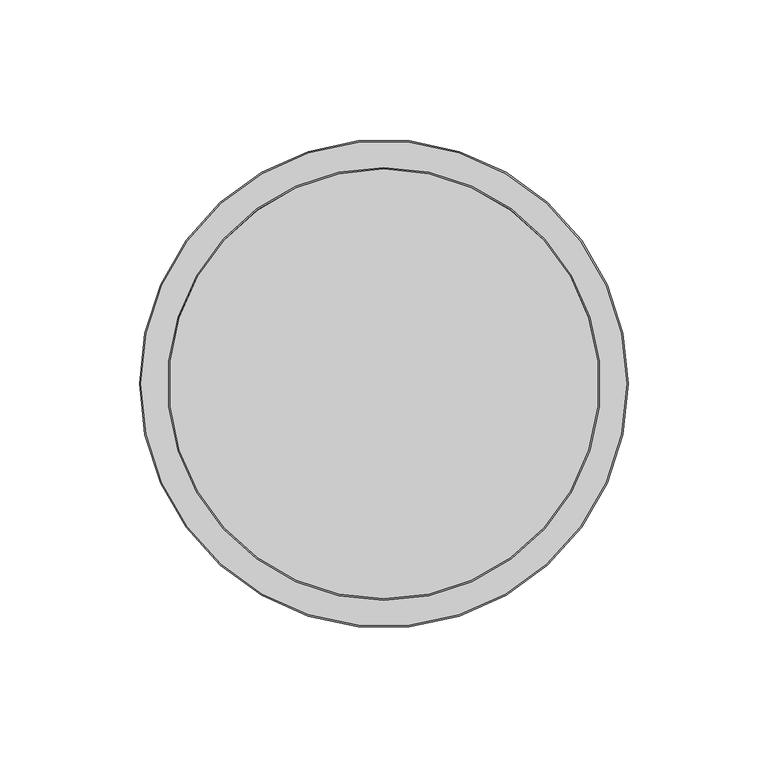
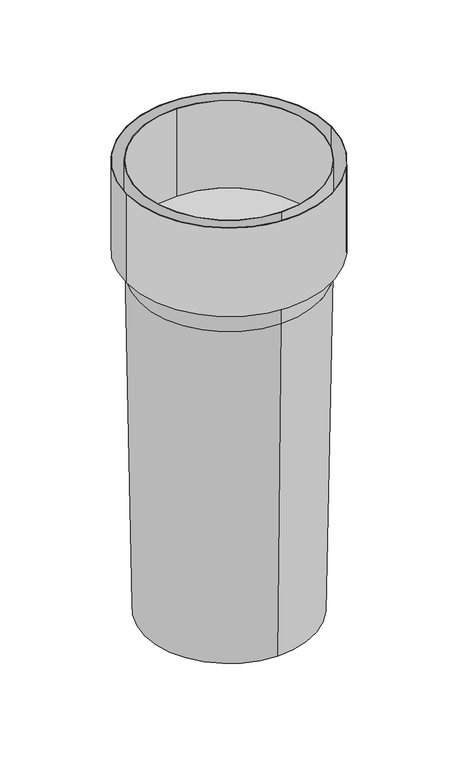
"""IFC4 building model written with IfcOpenShell, lengths in millimetres: valve geometry, Pipelife - Stormbox - Wkład filtr. stal. : 160 dł. 300 mm."""

from ifc_helpers import new_model, si_unit, frame, origin, place, context, project, spatial, polyline, circle_curve, source, transform, mapped, element, save
from ifc_brep_helpers import plane_surface, cylinder_surface, revolved_surface, advanced_brep


def valve_4bfdaffc(model_context):
    return source(origin(), model_context, "Body", "AdvancedBrep", [
        advanced_brep(
        [(87.5, 0.0, 324.0), (-87.5, 0.0, 324.0), (87.5, 0.0, 404.0), (-87.5, 0.0, 404.0), (87.0, 0.0, 404.0), (-87.0, 0.0, 404.0), (87.5, 0.0, 325.0), (-87.5, 0.0, 325.0), (-87.0, 0.0, 325.0), (87.0, 0.0, 325.0), (0.0, -77.5, 325.0), (0.0, 77.5, 325.0), (0.0, -77.0, 325.0), (0.0, 77.0, 325.0), (0.0, 77.5, 404.0), (0.0, -77.5, 404.0), (0.0, 77.0, 404.0), (0.0, -77.0, 404.0)],
        [
            (0, 1, circle_curve(frame((0.0, 0.0, 324.0), z_axis=(0.0, 0.0, -1.0), x_axis=(-1.0, 0.0, 0.0)), 87.5)),
            (1, 0, circle_curve(frame((0.0, 0.0, 324.0), z_axis=(0.0, 0.0, -1.0), x_axis=(-1.0, 0.0, 0.0)), 87.5)),
            (2, 3, circle_curve(frame((0.0, 0.0, 404.0), z_axis=(0.0, 0.0, 1.0), x_axis=(-1.0, 0.0, 0.0)), 87.5)),
            (3, 2, circle_curve(frame((0.0, 0.0, 404.0), z_axis=(0.0, 0.0, 1.0), x_axis=(-1.0, 0.0, 0.0)), 87.5)),
            (4, 5, circle_curve(frame((0.0, 0.0, 404.0), z_axis=(0.0, 0.0, -1.0), x_axis=(-1.0, 0.0, 0.0)), 87.0)),
            (5, 4, circle_curve(frame((0.0, 0.0, 404.0), z_axis=(0.0, 0.0, -1.0), x_axis=(-1.0, 0.0, 0.0)), 87.0)),
            (0, 6),
            (6, 2),
            (3, 7),
            (7, 1),
            (5, 8),
            (8, 9, circle_curve(frame((0.0, 0.0, 325.0), z_axis=(0.0, 0.0, -1.0), x_axis=(-1.0, 0.0, 0.0)), 87.0)),
            (9, 4),
            (9, 8, circle_curve(frame((0.0, 0.0, 325.0), z_axis=(0.0, 0.0, -1.0), x_axis=(-1.0, 0.0, 0.0)), 87.0)),
            (10, 11, circle_curve(frame((0.0, 0.0, 325.0), z_axis=(0.0, 0.0, -1.0), x_axis=(0.0, -1.0, 0.0)), 77.5)),
            (11, 10, circle_curve(frame((0.0, 0.0, 325.0), z_axis=(0.0, 0.0, -1.0), x_axis=(0.0, -1.0, 0.0)), 77.5)),
            (12, 13, circle_curve(frame((0.0, 0.0, 325.0), z_axis=(0.0, 0.0, 1.0), x_axis=(0.0, -1.0, 0.0)), 77.0)),
            (13, 12, circle_curve(frame((0.0, 0.0, 325.0), z_axis=(0.0, 0.0, 1.0), x_axis=(0.0, -1.0, 0.0)), 77.0)),
            (14, 15, circle_curve(frame((0.0, 0.0, 404.0), z_axis=(0.0, 0.0, 1.0), x_axis=(0.0, -1.0, 0.0)), 77.5)),
            (15, 14, circle_curve(frame((0.0, 0.0, 404.0), z_axis=(0.0, 0.0, 1.0), x_axis=(0.0, -1.0, 0.0)), 77.5)),
            (16, 17, circle_curve(frame((0.0, 0.0, 404.0), z_axis=(0.0, 0.0, -1.0), x_axis=(0.0, -1.0, 0.0)), 77.0)),
            (17, 16, circle_curve(frame((0.0, 0.0, 404.0), z_axis=(0.0, 0.0, -1.0), x_axis=(0.0, -1.0, 0.0)), 77.0)),
            (14, 11),
            (10, 15),
            (16, 13),
            (12, 17),
        ],
        [
            plane_surface(frame((0.0, 0.0, 324.0), z_axis=(0.0, 0.0, -1.0), x_axis=(0.0, -1.0, 0.0))),
            plane_surface(frame((0.0, 0.0, 404.0), z_axis=(0.0, 0.0, 1.0), x_axis=(0.0, -1.0, 0.0))),
            cylinder_surface(frame((0.0, 0.0, 324.0), z_axis=(0.0, 0.0, -1.0), x_axis=(-1.0, 0.0, 0.0)), 87.5),
            revolved_surface(polyline([(-87.0, 0.0, 404.0), (-87.0, 0.0, 325.0)]), (0.0, 0.0, 324.0), (0.0, 0.0, 1.0)),
            plane_surface(frame((0.0, 0.0, 325.0), z_axis=(0.0, 0.0, 1.0), x_axis=(0.0, -1.0, 0.0))),
            cylinder_surface(frame((0.0, 0.0, 404.0), z_axis=(0.0, 0.0, 1.0), x_axis=(0.0, -1.0, 0.0)), 77.5),
            revolved_surface(polyline([(0.0, -77.0, 325.0), (0.0, -77.0, 404.0)]), (0.0, 0.0, 404.0), (0.0, 0.0, -1.0)),
        ],
        [
            (0, [[1, 2]]),
            (1, [[3, 4], [5, 6]]),
            (2, [[-1, 7, 8, -4, 9, 10]]),
            (2, [[-2, -10, -9, -3, -8, -7]]),
            (3, [[-6, 11, 12, 13]]),
            (3, [[-5, -13, 14, -11]]),
            (4, [[-12, -14], [15, 16]]),
            (4, [[17, 18]]),
            (1, [[19, 20], [21, 22]]),
            (5, [[-19, 23, -15, 24]]),
            (5, [[-20, -24, -16, -23]]),
            (6, [[-21, 25, -17, 26]]),
            (6, [[-22, -26, -18, -25]]),
        ],
    ),
        advanced_brep(
        [(0.0, 72.0, 0.0), (0.0, -72.0, 0.0), (0.0, -77.0, 303.0), (0.0, 77.0, 303.0), (0.0, 77.0, 324.0), (0.0, -77.0, 324.0)],
        [
            (0, 1, circle_curve(frame((0.0, 0.0, 0.0), z_axis=(0.0, 0.0, -1.0), x_axis=(0.0, -1.0, 0.0)), 72.0)),
            (1, 0, circle_curve(frame((0.0, 0.0, 0.0), z_axis=(0.0, 0.0, -1.0), x_axis=(0.0, 1.0, 0.0)), 72.0)),
            (1, 2),
            (2, 3, circle_curve(frame((0.0, 0.0, 303.0), z_axis=(0.0, 0.0, -1.0), x_axis=(0.0, 1.0, 0.0)), 77.0)),
            (3, 0),
            (3, 2, circle_curve(frame((0.0, 0.0, 303.0), z_axis=(0.0, 0.0, -1.0), x_axis=(0.0, -1.0, 0.0)), 77.0)),
            (4, 5, circle_curve(frame((0.0, 0.0, 324.0), z_axis=(0.0, 0.0, 1.0), x_axis=(0.0, -1.0, 0.0)), 77.0)),
            (5, 4, circle_curve(frame((0.0, 0.0, 324.0), z_axis=(0.0, 0.0, 1.0), x_axis=(0.0, -1.0, 0.0)), 77.0)),
            (4, 3),
            (2, 5),
        ],
        [
            plane_surface(frame((0.0, 0.0, 0.0), z_axis=(0.0, 0.0, -1.0), x_axis=(-1.0, 0.0, 0.0))),
            revolved_surface(polyline([(0.0, -72.0, 0.0), (0.0, -77.0, 303.0)]), (0.0, 0.0, -4363.2), (0.0, 0.0, 1.0)),
            revolved_surface(polyline([(0.0, 72.0, 0.0), (0.0, 77.0, 303.0)]), (0.0, 0.0, -4363.2), (0.0, 0.0, 1.0)),
            plane_surface(frame((0.0, 0.0, 324.0), z_axis=(0.0, 0.0, 1.0), x_axis=(0.0, -1.0, 0.0))),
            cylinder_surface(frame((0.0, 0.0, 324.0), z_axis=(0.0, 0.0, 1.0), x_axis=(0.0, -1.0, 0.0)), 77.0),
        ],
        [
            (0, [[1, 2]]),
            (1, [[-2, 3, 4, 5]]),
            (2, [[-1, -5, 6, -3]]),
            (3, [[7, 8]]),
            (4, [[-7, 9, -4, 10]]),
            (4, [[-8, -10, -6, -9]]),
        ],
    ),
    ])


if __name__ == "__main__":
    model = new_model("IFC4")
    model_context = context("Model", 3, world=origin())
    ifc_project = project(units=[si_unit("LENGTHUNIT", "METRE", prefix="MILLI")], contexts=[model_context])
    site = spatial("IfcSite", under=ifc_project)
    building = spatial("IfcBuilding", under=site)
    placement = place(None, origin())
    valve_shape = valve_4bfdaffc(model_context)
    element("IfcValve", 1, ObjectType="Pipelife - Stormbox - Wkład filtr. stal. : 160 dł. 300 mm", at=placement, inside=building, context=model_context, shape_type="MappedRepresentation", body=[
        mapped(valve_shape, transform((0.0, 0.0, 0.0), x_axis=(1.0, 0.0, 0.0), y_axis=(0.0, 1.0, 0.0), z_axis=(0.0, 0.0, 1.0))),
    ])
    save(model, "model.ifc")
